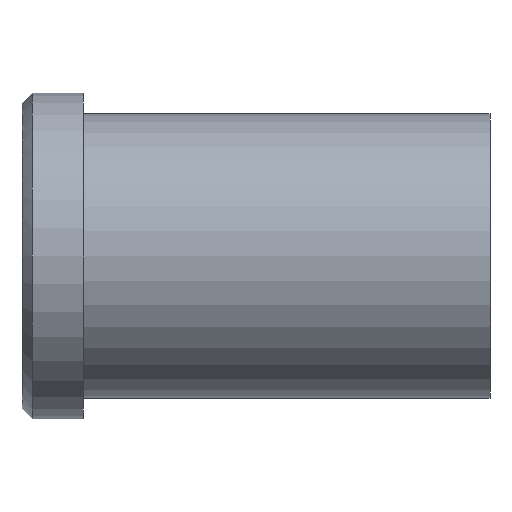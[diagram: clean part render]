
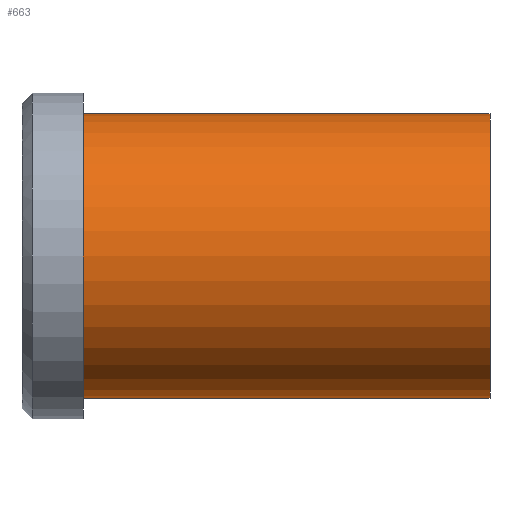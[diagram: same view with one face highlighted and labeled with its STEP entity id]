
A CAD part, front view. The second image highlights one B-rep face of the part: STEP entity #663.
In plain terms, the highlighted cylindrical face has radius 14 mm (diameter 28 mm), a partial arc.
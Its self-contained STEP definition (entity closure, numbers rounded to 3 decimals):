
#501=CARTESIAN_POINT('Vertex',(0.,0.,-14.)) ;
#506=CARTESIAN_POINT('Axis2P3D Location',(0.,0.,0.)) ;
#510=CARTESIAN_POINT('Vertex',(0.,-14.,0.)) ;
#513=CARTESIAN_POINT('Axis2P3D Location',(0.,0.,0.)) ;
#517=CARTESIAN_POINT('Vertex',(0.,0.,14.)) ;
#603=CARTESIAN_POINT('Line Origine',(40.,0.,14.)) ;
#607=CARTESIAN_POINT('Vertex',(40.,0.,14.)) ;
#621=CARTESIAN_POINT('Vertex',(40.,0.,-14.)) ;
#624=CARTESIAN_POINT('Line Origine',(40.,0.,-14.)) ;
#638=CARTESIAN_POINT('Axis2P3D Location',(40.,0.,0.)) ;
#643=CARTESIAN_POINT('Axis2P3D Location',(40.,0.,0.)) ;
#647=CARTESIAN_POINT('Vertex',(40.,-14.,0.)) ;
#650=CARTESIAN_POINT('Axis2P3D Location',(40.,0.,0.)) ;
#507=DIRECTION('Axis2P3D Direction',(1.,0.,-0.)) ;
#514=DIRECTION('Axis2P3D Direction',(1.,0.,-0.)) ;
#604=DIRECTION('Vector Direction',(-1.,0.,0.)) ;
#625=DIRECTION('Vector Direction',(-1.,0.,0.)) ;
#639=DIRECTION('Axis2P3D Direction',(-1.,-0.,-0.)) ;
#640=DIRECTION('Axis2P3D XDirection',(0.,0.,-1.)) ;
#644=DIRECTION('Axis2P3D Direction',(-1.,-0.,-0.)) ;
#651=DIRECTION('Axis2P3D Direction',(-1.,-0.,-0.)) ;
#508=AXIS2_PLACEMENT_3D('Circle Axis2P3D',#506,#507,$) ;
#515=AXIS2_PLACEMENT_3D('Circle Axis2P3D',#513,#514,$) ;
#641=AXIS2_PLACEMENT_3D('Cylinder Axis2P3D',#638,#639,#640) ;
#645=AXIS2_PLACEMENT_3D('Circle Axis2P3D',#643,#644,$) ;
#652=AXIS2_PLACEMENT_3D('Circle Axis2P3D',#650,#651,$) ;
#656=ORIENTED_EDGE('',*,*,#628,.T.) ;
#657=ORIENTED_EDGE('',*,*,#649,.F.) ;
#658=ORIENTED_EDGE('',*,*,#654,.F.) ;
#659=ORIENTED_EDGE('',*,*,#609,.T.) ;
#660=ORIENTED_EDGE('',*,*,#519,.T.) ;
#661=ORIENTED_EDGE('',*,*,#512,.T.) ;
#605=VECTOR('Line Direction',#604,1.) ;
#626=VECTOR('Line Direction',#625,1.) ;
#663=ADVANCED_FACE('353-20X46',(#662),#642,.T.) ;
#509=CIRCLE('generated circle',#508,14.) ;
#516=CIRCLE('generated circle',#515,14.) ;
#646=CIRCLE('generated circle',#645,14.) ;
#653=CIRCLE('generated circle',#652,14.) ;
#642=CYLINDRICAL_SURFACE('generated cylinder',#641,14.) ;
#512=EDGE_CURVE('',#511,#502,#509,.T.) ;
#519=EDGE_CURVE('',#518,#511,#516,.T.) ;
#609=EDGE_CURVE('',#608,#518,#606,.T.) ;
#628=EDGE_CURVE('',#502,#622,#627,.F.) ;
#649=EDGE_CURVE('',#648,#622,#646,.F.) ;
#654=EDGE_CURVE('',#608,#648,#653,.F.) ;
#655=EDGE_LOOP('',(#656,#657,#658,#659,#660,#661)) ;
#662=FACE_OUTER_BOUND('',#655,.T.) ;
#606=LINE('Line',#603,#605) ;
#627=LINE('Line',#624,#626) ;
#502=VERTEX_POINT('',#501) ;
#511=VERTEX_POINT('',#510) ;
#518=VERTEX_POINT('',#517) ;
#608=VERTEX_POINT('',#607) ;
#622=VERTEX_POINT('',#621) ;
#648=VERTEX_POINT('',#647) ;
